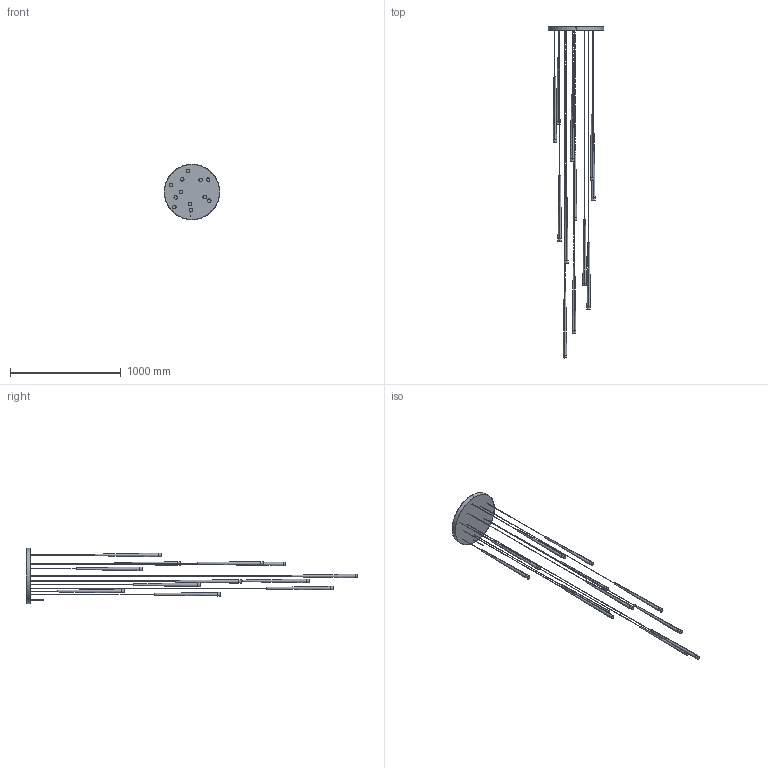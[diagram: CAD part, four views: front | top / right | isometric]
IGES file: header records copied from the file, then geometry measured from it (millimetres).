
Start section: SolidWorks IGES file using analytic representation for surfaces
Global section: file name: F:\燠隴矨\3D\10堎\10渾奻換\Slender Cone Chandelier-12H.IGS; native system: SolidWorks 2022; preprocessor: SolidWorks 2022; author: MyPC; date: 231014.090105; units: millimetre
Bounding box: 500 x 3000 x 500 mm (x, y, z)
Surface area: 1171964.5 mm2 (no closed solid volume)
Topology: 0 solids, 0 shells, 155 faces, 4088 edges, 4088 vertices
Faces by surface type: revolution 78, bspline 77
